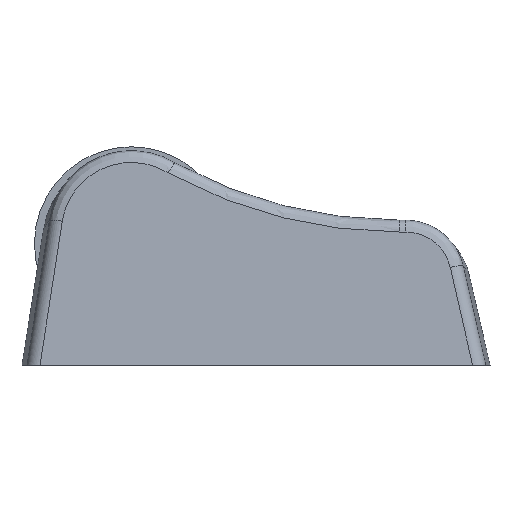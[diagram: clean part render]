
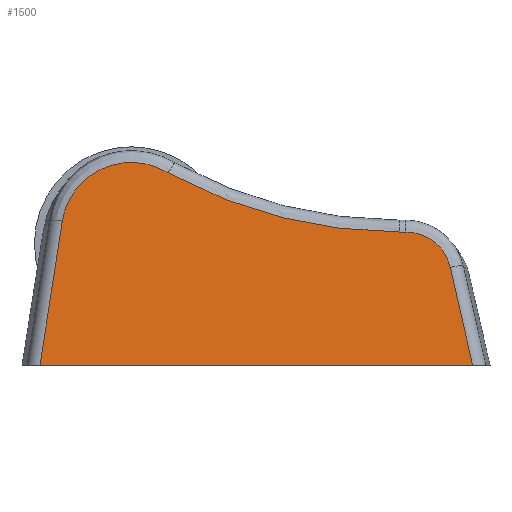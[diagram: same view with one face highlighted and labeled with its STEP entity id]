
A CAD part, front view. The second image highlights one B-rep face of the part: STEP entity #1500.
In plain terms, the highlighted planar face has unit normal (0, -0.996, 0.087).
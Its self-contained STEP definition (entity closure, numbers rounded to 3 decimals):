
#299=CARTESIAN_POINT('',(-70.23,-115.4,-93.5));
#313=CARTESIAN_POINT('',(262.394,-115.4,-93.5));
#435=DIRECTION('',(-0.153,-0.086,-0.985));
#436=VECTOR('',#435,112.416);
#437=CARTESIAN_POINT('',(-53.081,-105.717,17.178));
#438=LINE('',#437,#436);
#439=CARTESIAN_POINT('',(28.361,-102.465,54.351));
#440=CARTESIAN_POINT('',(27.273,-102.406,55.022));
#441=CARTESIAN_POINT('',(24.997,-102.293,56.317));
#442=CARTESIAN_POINT('',(21.255,-102.138,58.088));
#443=CARTESIAN_POINT('',(17.173,-102.002,59.643));
#444=CARTESIAN_POINT('',(12.728,-101.889,60.929));
#445=CARTESIAN_POINT('',(7.996,-101.808,61.86));
#446=CARTESIAN_POINT('',(3.187,-101.764,62.361));
#447=CARTESIAN_POINT('',(-1.604,-101.758,62.426));
#448=CARTESIAN_POINT('',(-6.387,-101.79,62.068));
#449=CARTESIAN_POINT('',(-11.129,-101.858,61.29));
#450=CARTESIAN_POINT('',(-15.781,-101.962,60.099));
#451=CARTESIAN_POINT('',(-20.301,-102.101,58.508));
#452=CARTESIAN_POINT('',(-24.652,-102.275,56.521));
#453=CARTESIAN_POINT('',(-28.809,-102.482,54.149));
#454=CARTESIAN_POINT('',(-32.737,-102.721,51.422));
#455=CARTESIAN_POINT('',(-36.398,-102.988,48.37));
#456=CARTESIAN_POINT('',(-39.771,-103.282,45.015));
#457=CARTESIAN_POINT('',(-42.851,-103.602,41.349));
#458=CARTESIAN_POINT('',(-45.577,-103.946,37.42));
#459=CARTESIAN_POINT('',(-47.862,-104.297,33.405));
#460=CARTESIAN_POINT('',(-49.716,-104.649,29.386));
#461=CARTESIAN_POINT('',(-51.13,-104.985,25.543));
#462=CARTESIAN_POINT('',(-52.239,-105.322,21.69));
#463=CARTESIAN_POINT('',(-52.843,-105.581,18.728));
#464=CARTESIAN_POINT('',(-53.081,-105.717,17.178));
#466=CARTESIAN_POINT('',(206.039,-106.437,8.946));
#467=CARTESIAN_POINT('',(200.288,-106.437,8.946));
#468=CARTESIAN_POINT('',(189.12,-106.413,9.218));
#469=CARTESIAN_POINT('',(173.692,-106.322,10.259));
#470=CARTESIAN_POINT('',(158.628,-106.179,11.892));
#471=CARTESIAN_POINT('',(143.98,-105.988,14.083));
#472=CARTESIAN_POINT('',(129.617,-105.749,16.814));
#473=CARTESIAN_POINT('',(115.442,-105.462,20.092));
#474=CARTESIAN_POINT('',(101.348,-105.125,23.941));
#475=CARTESIAN_POINT('',(87.238,-104.735,28.404));
#476=CARTESIAN_POINT('',(73.014,-104.285,33.54));
#477=CARTESIAN_POINT('',(58.581,-103.769,39.44));
#478=CARTESIAN_POINT('',(43.975,-103.183,46.144));
#479=CARTESIAN_POINT('',(33.627,-102.717,51.469));
#480=CARTESIAN_POINT('',(28.361,-102.465,54.351));
#482=DIRECTION('',(-1.,0.,0.));
#483=VECTOR('',#482,5.);
#484=CARTESIAN_POINT('',(211.039,-106.437,8.946));
#485=LINE('',#484,#483);
#486=CARTESIAN_POINT('',(245.226,-108.81,-18.174));
#487=CARTESIAN_POINT('',(244.834,-108.658,-16.443));
#488=CARTESIAN_POINT('',(243.777,-108.356,-12.991));
#489=CARTESIAN_POINT('',(241.183,-107.897,-7.741));
#490=CARTESIAN_POINT('',(237.59,-107.469,-2.849));
#491=CARTESIAN_POINT('',(233.101,-107.094,1.437));
#492=CARTESIAN_POINT('',(227.898,-106.794,4.865));
#493=CARTESIAN_POINT('',(222.274,-106.581,7.296));
#494=CARTESIAN_POINT('',(216.497,-106.461,8.675));
#495=CARTESIAN_POINT('',(212.842,-106.437,8.946));
#496=CARTESIAN_POINT('',(211.039,-106.437,8.946));
#498=DIRECTION('',(-0.221,0.085,0.971));
#499=VECTOR('',#498,77.538);
#500=CARTESIAN_POINT('',(262.394,-115.4,-93.5));
#501=LINE('',#500,#499);
#502=DIRECTION('',(1.,0.,0.));
#503=VECTOR('',#502,332.623);
#504=CARTESIAN_POINT('',(-70.23,-115.4,-93.5));
#505=LINE('',#504,#503);
#673=VERTEX_POINT('',#299);
#677=CARTESIAN_POINT('',(-53.081,-105.717,17.178));
#678=VERTEX_POINT('',#677);
#679=VERTEX_POINT('',#439);
#682=VERTEX_POINT('',#313);
#683=CARTESIAN_POINT('',(245.226,-108.81,-18.174));
#684=VERTEX_POINT('',#683);
#687=VERTEX_POINT('',#496);
#689=CARTESIAN_POINT('',(206.039,-106.437,8.946));
#690=VERTEX_POINT('',#689);
#1481=CARTESIAN_POINT('',(-89.47,-115.4,-93.5));
#1482=DIRECTION('',(0.,-0.996,0.087));
#1483=DIRECTION('',(-1.,0.,0.));
#1484=AXIS2_PLACEMENT_3D('',#1481,#1482,#1483);
#1485=PLANE('',#1484);
#1487=ORIENTED_EDGE('',*,*,#1486,.F.);
#1489=ORIENTED_EDGE('',*,*,#1488,.F.);
#1491=ORIENTED_EDGE('',*,*,#1490,.F.);
#1493=ORIENTED_EDGE('',*,*,#1492,.F.);
#1495=ORIENTED_EDGE('',*,*,#1494,.F.);
#1496=ORIENTED_EDGE('',*,*,#1473,.F.);
#1497=ORIENTED_EDGE('',*,*,#1072,.F.);
#1498=EDGE_LOOP('',(#1487,#1489,#1491,#1493,#1495,#1496,#1497));
#1499=FACE_OUTER_BOUND('',#1498,.F.);
#1500=ADVANCED_FACE('',(#1499),#1485,.T.);
#465=B_SPLINE_CURVE_WITH_KNOTS('',3,(#439,#440,#441,#442,#443,#444,#445,#446,
#447,#448,#449,#450,#451,#452,#453,#454,#455,#456,#457,#458,#459,#460,#461,#462,
#463,#464),.UNSPECIFIED.,.F.,.F.,(4,1,1,1,1,1,1,1,1,1,1,1,1,1,1,1,1,1,1,1,1,1,1,
4),(0.,0.043,0.087,0.13,
0.174,0.217,0.261,0.304,
0.348,0.391,0.435,0.478,
0.522,0.565,0.609,0.652,
0.696,0.739,0.783,0.826,
0.87,0.913,0.957,1.),.UNSPECIFIED.);
#481=B_SPLINE_CURVE_WITH_KNOTS('',3,(#466,#467,#468,#469,#470,#471,#472,#473,
#474,#475,#476,#477,#478,#479,#480),.UNSPECIFIED.,.F.,.F.,(4,1,1,1,1,1,1,1,1,1,
1,1,4),(0.,0.083,0.167,0.25,0.333,
0.417,0.5,0.583,0.667,0.75,
0.833,0.917,1.),.UNSPECIFIED.);
#497=B_SPLINE_CURVE_WITH_KNOTS('',3,(#486,#487,#488,#489,#490,#491,#492,#493,
#494,#495,#496),.UNSPECIFIED.,.F.,.F.,(4,1,1,1,1,1,1,1,4),(0.,0.125,0.25,
0.375,0.5,0.625,0.75,0.875,1.),.UNSPECIFIED.);
#1072=EDGE_CURVE('',#673,#682,#505,.T.);
#1473=EDGE_CURVE('',#682,#684,#501,.T.);
#1486=EDGE_CURVE('',#678,#673,#438,.T.);
#1488=EDGE_CURVE('',#679,#678,#465,.T.);
#1490=EDGE_CURVE('',#690,#679,#481,.T.);
#1492=EDGE_CURVE('',#687,#690,#485,.T.);
#1494=EDGE_CURVE('',#684,#687,#497,.T.);
